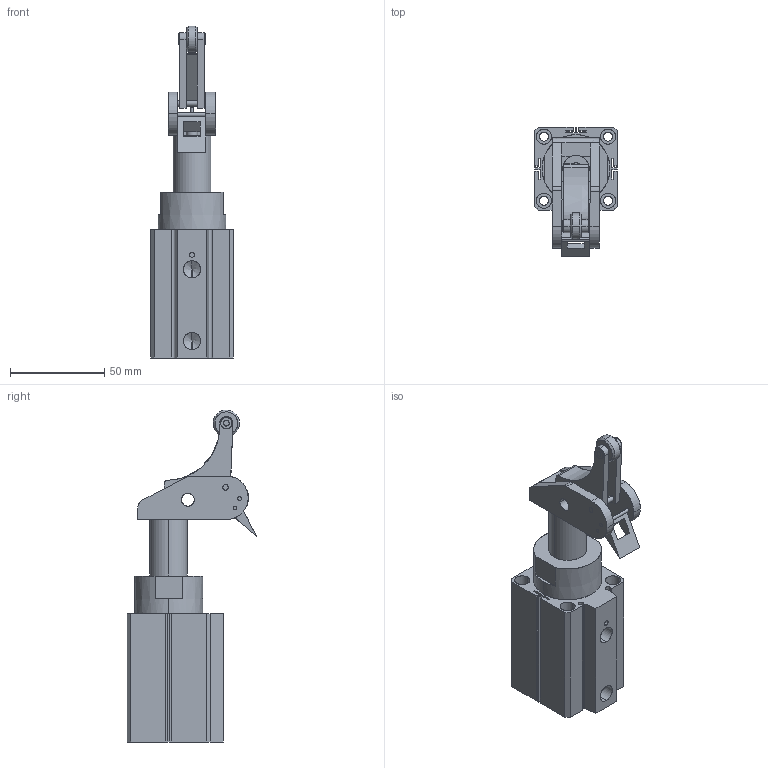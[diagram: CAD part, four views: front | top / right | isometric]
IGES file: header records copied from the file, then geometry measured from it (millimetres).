
Start section: SolidWorks IGES file using analytic representation for surfaces
Global section: file name: H:\elod\elod 32\course 20\elod32-20.IGS; native system: SolidWorks 2010; preprocessor: SolidWorks 2010; author: SGA; date: 110512.093335; units: millimetre
Bounding box: 44 x 68.83 x 176.01 mm (x, y, z)
Surface area: 46229.1 mm2 (no closed solid volume)
Topology: 0 solids, 0 shells, 234 faces, 3952 edges, 3946 vertices
Faces by surface type: bspline 119, revolution 115
